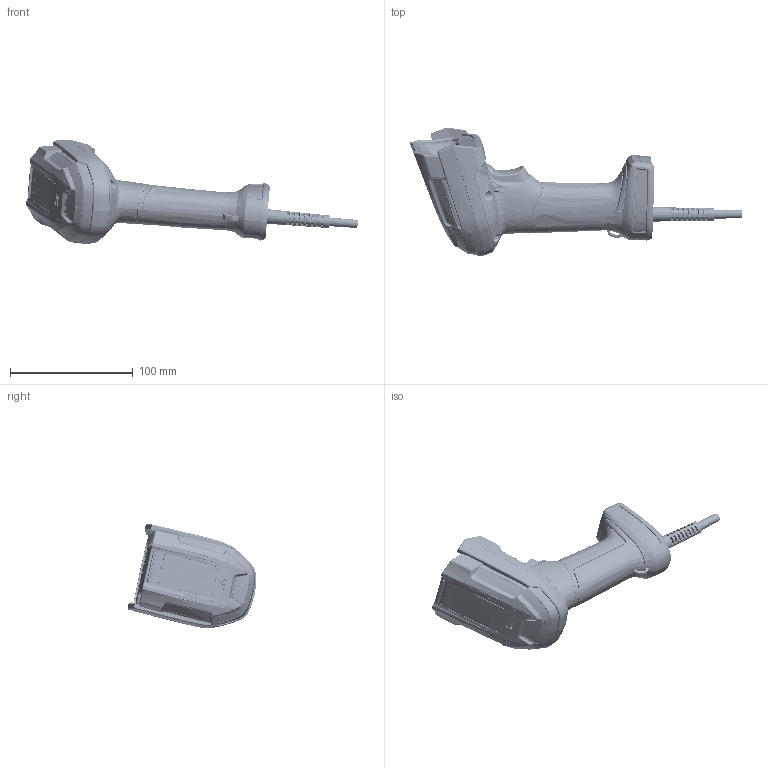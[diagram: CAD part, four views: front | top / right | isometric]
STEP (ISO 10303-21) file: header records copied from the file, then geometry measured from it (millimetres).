
FILE_DESCRIPTION((''),'2;1');
FILE_NAME('000-DE-30-003447_ASM','2026-01-13T21:26:58',('qinyangfan'),(''),'CREO PARAMETRIC BY PTC INC, 2020044','CREO PARAMETRIC BY PTC INC, 2020044','');
FILE_SCHEMA(('CONFIG_CONTROL_DESIGN'));
Products named in the file (60): DE-12-007012; DE-12-007013; DE-12-007014; DE-12-007011_ASM; DE-17-005327; DE-12-007015; DE-12-007016; DE-12-007017; DE-17-005329; DE-17-005330; DE-18-000385; DE-17-005328; DE-18-000386; DE-17-005331; DE-16-000365; DE-12-007020; DE-19-014552; DE-19-014551_ASM; ZKRD8D5CF859XP69_1; ZKRD8D5CF859XP69_2; ZKRD8D5CF859XP69_3; ZKRD8D5CF859XP69_4; ZKRD8D5CF859XP69_ASM; DE-20-050244_ASM; DE-17-005333; BREP_1_1_2_3_4; BK202558872FBLMD_2; BK202558872FBLMD_ASM; _-DE-12-0070170001_ASM; DE-20-050246_ASM; DE-12-006986; DE-12-006987; DE-12-006988; TIP-M3X4-4_5X5-SO-ET-09231358; TIP-M3X4-4_5X5-SO-ET-11201154; DE-20-050119_ASM; DE-1A-000406; DE-20-050136_ASM; DE-1A-000410; DE-20-050138_ASM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
Assembly tree (73 placements, depth 5):
  000-DE-30-003447_ASM
    DE-20-050246_ASM
      DE-12-007011_ASM
        DE-12-007012
        DE-12-007013
        DE-12-007014
      DE-17-005327
      DE-12-007015  x2
      DE-12-007016
      DE-12-007017
      DE-17-005329
      DE-17-005330
      DE-18-000385
      DE-17-005328
      DE-18-000386
      DE-17-005331
      DE-16-000365
      DE-20-050244_ASM
        DE-12-007020
        DE-19-014551_ASM
          DE-19-014552
        ZKRD8D5CF859XP69_ASM
          ZKRD8D5CF859XP69_1
          ZKRD8D5CF859XP69_2
          ZKRD8D5CF859XP69_3
          ZKRD8D5CF859XP69_4
      DE-17-005333
      BREP_1_1_2_3_4
      _-DE-12-0070170001_ASM
        BK202558872FBLMD_ASM
          BK202558872FBLMD_2
    DE-20-050138_ASM
      DE-20-050136_ASM
        DE-20-050119_ASM
          DE-12-006986
          DE-12-006987
          DE-12-006988
          TIP-M3X4-4_5X5-SO-ET-09231358  x2
          TIP-M3X4-4_5X5-SO-ET-11201154  x2
        DE-1A-000406
      DE-1A-000410
    DE-20-050388_ASM
      SC-PB2X9B-JMP  x7
      SC-PM2_5X10-SUS  x4
      SC-PA2X6-JMP  x2
      SC-KA2_5X11_5B  x2
    DE-20-050381_ASM
      DE-20-050382_ASM
        DE-19-014622
        DE-20-050383_ASM
          DE-19-014623
          DE-19-014624
          DE-19-014625
          DE-19-014626
          DE-19-014627
        DE-19-014628
        DE-19-014629
        DE-19-014630
        DE-19-014631
        DE-19-014632
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Bounding box: 270.18 x 104.97 x 85.06 mm (x, y, z)
Volume: 249273 mm3; surface area: 229608.5 mm2
Topology: 64 solids, 95 shells, 9303 faces, 24983 edges, 15961 vertices
Faces by surface type: plane 3808, bspline 2831, cylinder 1905, extrusion 302, cone 249, torus 163, sphere 45
Entity records: 466780 total; most frequent: CARTESIAN_POINT 283855, ORIENTED_EDGE 44485, DIRECTION 26780, EDGE_CURVE 22288, VERTEX_POINT 14352, VECTOR 10590, LINE 10288, B_SPLINE_CURVE_WITH_KNOTS 9750
